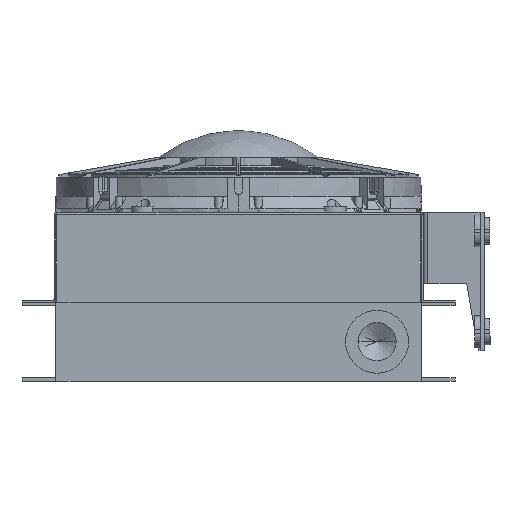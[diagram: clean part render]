
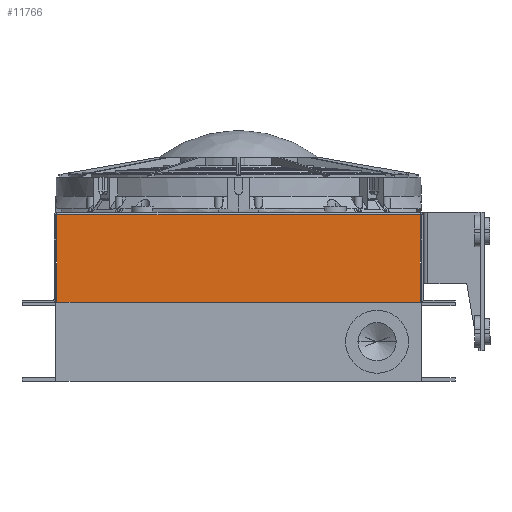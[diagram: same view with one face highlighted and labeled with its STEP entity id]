
A CAD part, left-side view. The second image highlights one B-rep face of the part: STEP entity #11766.
In plain terms, the highlighted planar face has unit normal (-1, 0, 0) as drawn and (1, 0, 0) by its records, which use the part's own axes.
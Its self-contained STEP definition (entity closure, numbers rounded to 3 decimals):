
#568 = CARTESIAN_POINT ( 'NONE',  ( 156.5, -144.263, 71.5 ) ) ;
#956 = ORIENTED_EDGE ( 'NONE', *, *, #3493, .F. ) ;
#3166 = LINE ( 'NONE', #47013, #16528 ) ;
#3493 = EDGE_CURVE ( 'NONE', #52517, #31858, #3166, .T. ) ;
#3685 = EDGE_CURVE ( 'NONE', #54914, #52517, #23559, .T. ) ;
#4174 = CARTESIAN_POINT ( 'NONE',  ( 156.5, -144.263, 71.5 ) ) ;
#6534 = FACE_OUTER_BOUND ( 'NONE', #19303, .T. ) ;
#6973 = CARTESIAN_POINT ( 'NONE',  ( 156.5, 144.263, 2.237 ) ) ;
#9235 = EDGE_CURVE ( 'NONE', #63489, #54914, #44496, .T. ) ;
#11242 = CARTESIAN_POINT ( 'NONE',  ( 156.5, 144.263, 1.5 ) ) ;
#11766 = ADVANCED_FACE ( 'NONE', ( #6534 ), #31392, .T. ) ;
#16528 = VECTOR ( 'NONE', #42292, 1000. ) ;
#19303 = EDGE_LOOP ( 'NONE', ( #37843, #956, #22706, #36585 ) ) ;
#20682 = DIRECTION ( 'NONE',  ( 0., 0., -1. ) ) ;
#22706 = ORIENTED_EDGE ( 'NONE', *, *, #3685, .F. ) ;
#23559 = LINE ( 'NONE', #568, #31604 ) ;
#25433 = EDGE_CURVE ( 'NONE', #31858, #63489, #58641, .T. ) ;
#31392 = PLANE ( 'NONE',  #73346 ) ;
#31604 = VECTOR ( 'NONE', #34524, 1000. ) ;
#31858 = VERTEX_POINT ( 'NONE', #66146 ) ;
#34524 = DIRECTION ( 'NONE',  ( 0., 0., 1. ) ) ;
#36585 = ORIENTED_EDGE ( 'NONE', *, *, #9235, .F. ) ;
#37843 = ORIENTED_EDGE ( 'NONE', *, *, #25433, .F. ) ;
#42292 = DIRECTION ( 'NONE',  ( 0., 1., 0. ) ) ;
#44496 = LINE ( 'NONE', #73203, #46269 ) ;
#46269 = VECTOR ( 'NONE', #67708, 1000. ) ;
#47013 = CARTESIAN_POINT ( 'NONE',  ( 156.5, 144.263, 71.5 ) ) ;
#51067 = DIRECTION ( 'NONE',  ( 0., 0., -1. ) ) ;
#52517 = VERTEX_POINT ( 'NONE', #4174 ) ;
#54779 = CARTESIAN_POINT ( 'NONE',  ( 156.5, 144.263, 1.5 ) ) ;
#54914 = VERTEX_POINT ( 'NONE', #73029 ) ;
#58641 = LINE ( 'NONE', #11242, #70198 ) ;
#63489 = VERTEX_POINT ( 'NONE', #6973 ) ;
#66146 = CARTESIAN_POINT ( 'NONE',  ( 156.5, 144.263, 71.5 ) ) ;
#67708 = DIRECTION ( 'NONE',  ( 0., -1., 0. ) ) ;
#70198 = VECTOR ( 'NONE', #51067, 1000. ) ;
#71448 = DIRECTION ( 'NONE',  ( 1., 0., 0. ) ) ;
#73029 = CARTESIAN_POINT ( 'NONE',  ( 156.5, -144.263, 2.237 ) ) ;
#73203 = CARTESIAN_POINT ( 'NONE',  ( 156.5, 144.263, 2.237 ) ) ;
#73346 = AXIS2_PLACEMENT_3D ( 'NONE', #54779, #71448, #20682 ) ;
